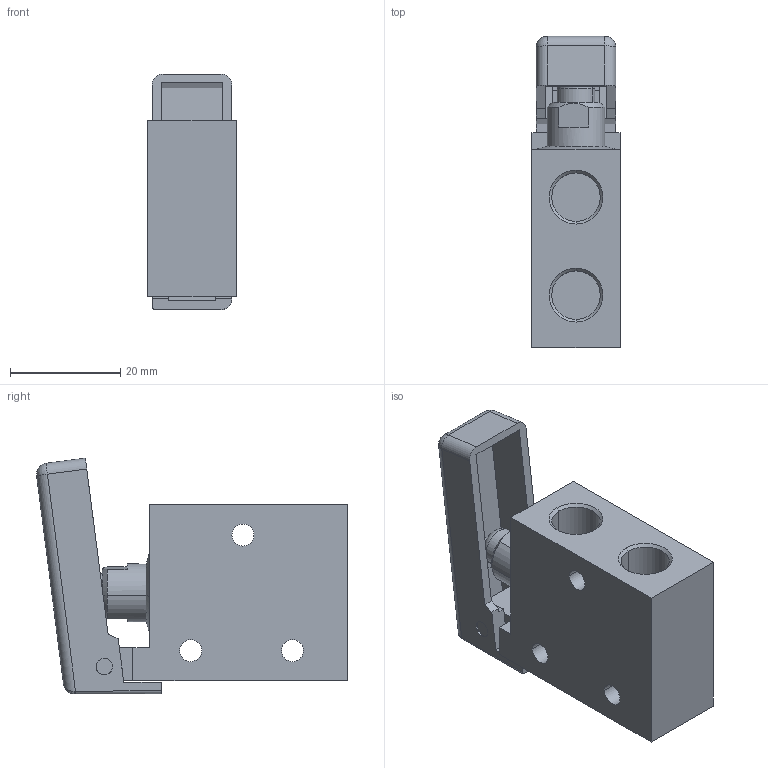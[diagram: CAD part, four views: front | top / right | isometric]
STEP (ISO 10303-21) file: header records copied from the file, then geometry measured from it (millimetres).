
FILE_DESCRIPTION (( 'STEP AP214' ), '1' );
FILE_NAME ('05_145_4.STEP', '2016-02-26T14:43:06', ( '' ), ( '' ), 'SwSTEP 2.0', 'SolidWorks 2016', '' );
FILE_SCHEMA (( 'AUTOMOTIVE_DESIGN' ));
Length unit declared in the file: millimetre
Products named in the file (1): 05_145_4
Bounding box: 16 x 56.51 x 42.83 mm (x, y, z)
Volume: 21521.3 mm3; surface area: 10295.8 mm2
Topology: 4 solids, 4 shells, 102 faces, 243 edges, 150 vertices
Faces by surface type: plane 47, cylinder 36, cone 12, sphere 3, torus 2, bspline 2
Entity records: 3359 total; most frequent: CARTESIAN_POINT 812, DIRECTION 518, ORIENTED_EDGE 478, EDGE_CURVE 239, AXIS2_PLACEMENT_3D 187, VERTEX_POINT 150, LINE 144, VECTOR 144
